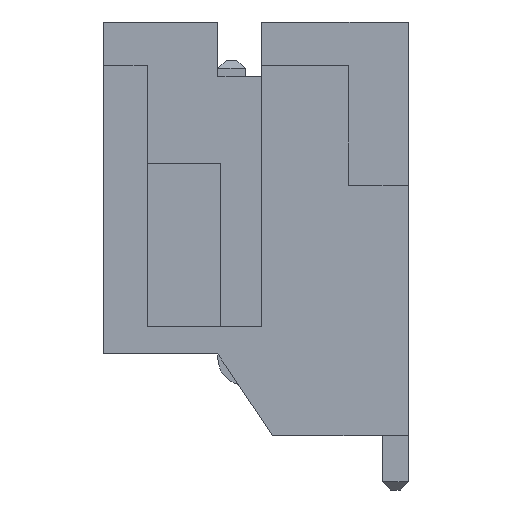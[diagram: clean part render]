
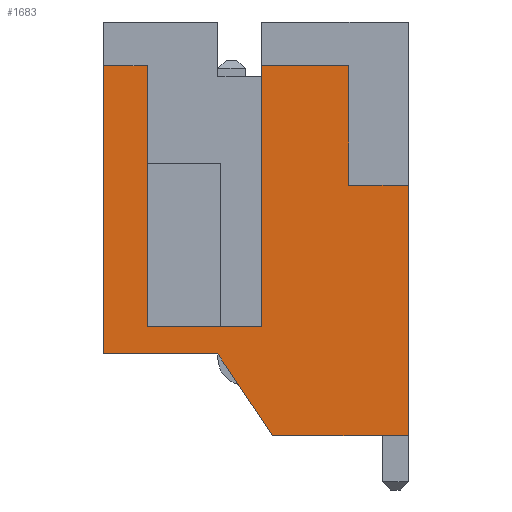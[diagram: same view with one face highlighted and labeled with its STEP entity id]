
A CAD part, left-side view. The second image highlights one B-rep face of the part: STEP entity #1683.
In plain terms, the highlighted planar face has unit normal (-1, 0, 0).
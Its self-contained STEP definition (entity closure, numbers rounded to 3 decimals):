
#15 = CARTESIAN_POINT ( 'NONE',  ( -4., 0., -3. ) ) ;
#113 = CARTESIAN_POINT ( 'NONE',  ( -4., 5.6, -0.8 ) ) ;
#222 = DIRECTION ( 'NONE',  ( 0., -1., 0. ) ) ;
#251 = CARTESIAN_POINT ( 'NONE',  ( -4., 1.1, -0.8 ) ) ;
#305 = CARTESIAN_POINT ( 'NONE',  ( -4., 2.7, -0.8 ) ) ;
#317 = ORIENTED_EDGE ( 'NONE', *, *, #3304, .T. ) ;
#318 = ORIENTED_EDGE ( 'NONE', *, *, #611, .T. ) ;
#322 = CARTESIAN_POINT ( 'NONE',  ( -4., 2.7, -0.8 ) ) ;
#324 = LINE ( 'NONE', #15, #3186 ) ;
#452 = ORIENTED_EDGE ( 'NONE', *, *, #1713, .T. ) ;
#459 = VERTEX_POINT ( 'NONE', #2300 ) ;
#462 = VECTOR ( 'NONE', #2949, 1000. ) ;
#492 = LINE ( 'NONE', #1971, #606 ) ;
#600 = VECTOR ( 'NONE', #3364, 1000. ) ;
#606 = VECTOR ( 'NONE', #2984, 1000. ) ;
#611 = EDGE_CURVE ( 'NONE', #3567, #2591, #324, .T. ) ;
#619 = EDGE_CURVE ( 'NONE', #1755, #459, #3584, .T. ) ;
#623 = CARTESIAN_POINT ( 'NONE',  ( -4., 1.1, -0.8 ) ) ;
#665 = VECTOR ( 'NONE', #1243, 1000. ) ;
#672 = ORIENTED_EDGE ( 'NONE', *, *, #3609, .T. ) ;
#792 = LINE ( 'NONE', #2969, #462 ) ;
#800 = EDGE_CURVE ( 'NONE', #3679, #459, #792, .T. ) ;
#869 = PLANE ( 'NONE',  #2678 ) ;
#872 = CARTESIAN_POINT ( 'NONE',  ( -4., 4.8, -5.6 ) ) ;
#907 = CARTESIAN_POINT ( 'NONE',  ( -4., 0., -7.6 ) ) ;
#924 = VERTEX_POINT ( 'NONE', #3655 ) ;
#1055 = LINE ( 'NONE', #1718, #3770 ) ;
#1112 = CARTESIAN_POINT ( 'NONE',  ( -4., 1.1, -0.8 ) ) ;
#1164 = CARTESIAN_POINT ( 'NONE',  ( -4., 4.8, -5.6 ) ) ;
#1218 = LINE ( 'NONE', #907, #1759 ) ;
#1234 = ORIENTED_EDGE ( 'NONE', *, *, #3900, .F. ) ;
#1243 = DIRECTION ( 'NONE',  ( 0., 1., 0. ) ) ;
#1282 = EDGE_CURVE ( 'NONE', #3679, #3567, #1218, .T. ) ;
#1325 = VECTOR ( 'NONE', #3546, 1000. ) ;
#1333 = EDGE_CURVE ( 'NONE', #2090, #3806, #2134, .T. ) ;
#1386 = CARTESIAN_POINT ( 'NONE',  ( -4., 2.7, -5.6 ) ) ;
#1475 = DIRECTION ( 'NONE',  ( 0., 0., 1. ) ) ;
#1494 = EDGE_LOOP ( 'NONE', ( #1234, #452, #3639, #317, #3325, #2797, #3235, #672, #1979, #3730, #2962, #318 ) ) ;
#1522 = LINE ( 'NONE', #2455, #3645 ) ;
#1551 = VERTEX_POINT ( 'NONE', #623 ) ;
#1683 = ADVANCED_FACE ( 'NONE', ( #3315 ), #869, .T. ) ;
#1713 = EDGE_CURVE ( 'NONE', #1551, #2254, #1747, .T. ) ;
#1718 = CARTESIAN_POINT ( 'NONE',  ( -4., 5.6, -6.1 ) ) ;
#1747 = LINE ( 'NONE', #251, #3192 ) ;
#1755 = VERTEX_POINT ( 'NONE', #1807 ) ;
#1759 = VECTOR ( 'NONE', #1475, 1000. ) ;
#1807 = CARTESIAN_POINT ( 'NONE',  ( -4., 3.5, -6.1 ) ) ;
#1843 = CARTESIAN_POINT ( 'NONE',  ( -4., 2.7, -5.6 ) ) ;
#1903 = CARTESIAN_POINT ( 'NONE',  ( -4., 1.1, -3. ) ) ;
#1971 = CARTESIAN_POINT ( 'NONE',  ( -4., 4.8, -0.8 ) ) ;
#1979 = ORIENTED_EDGE ( 'NONE', *, *, #619, .T. ) ;
#2073 = VECTOR ( 'NONE', #3912, 1000. ) ;
#2090 = VERTEX_POINT ( 'NONE', #1164 ) ;
#2134 = LINE ( 'NONE', #872, #600 ) ;
#2145 = DIRECTION ( 'NONE',  ( 0., 0., -1. ) ) ;
#2254 = VERTEX_POINT ( 'NONE', #322 ) ;
#2300 = CARTESIAN_POINT ( 'NONE',  ( -4., 2.495, -7.6 ) ) ;
#2341 = DIRECTION ( 'NONE',  ( 0., 1., 0. ) ) ;
#2383 = DIRECTION ( 'NONE',  ( 0., 1., 0. ) ) ;
#2403 = CARTESIAN_POINT ( 'NONE',  ( -4., 0., -7.6 ) ) ;
#2408 = EDGE_CURVE ( 'NONE', #924, #3550, #1055, .T. ) ;
#2416 = VECTOR ( 'NONE', #2145, 1000. ) ;
#2447 = DIRECTION ( 'NONE',  ( -1., 0., 0. ) ) ;
#2455 = CARTESIAN_POINT ( 'NONE',  ( -4., 5.6, -6.1 ) ) ;
#2591 = VERTEX_POINT ( 'NONE', #1903 ) ;
#2652 = CARTESIAN_POINT ( 'NONE',  ( -4., 4.8, -0.8 ) ) ;
#2671 = CARTESIAN_POINT ( 'NONE',  ( -4., 3.5, -6.1 ) ) ;
#2678 = AXIS2_PLACEMENT_3D ( 'NONE', #2403, #2447, #2757 ) ;
#2757 = DIRECTION ( 'NONE',  ( 0., 0., 1. ) ) ;
#2797 = ORIENTED_EDGE ( 'NONE', *, *, #3456, .T. ) ;
#2949 = DIRECTION ( 'NONE',  ( 0., 1., 0. ) ) ;
#2962 = ORIENTED_EDGE ( 'NONE', *, *, #1282, .T. ) ;
#2969 = CARTESIAN_POINT ( 'NONE',  ( -4., 0., -7.6 ) ) ;
#2984 = DIRECTION ( 'NONE',  ( 0., 1., 0. ) ) ;
#3044 = CARTESIAN_POINT ( 'NONE',  ( -4., 0., -7.6 ) ) ;
#3186 = VECTOR ( 'NONE', #2341, 1000. ) ;
#3192 = VECTOR ( 'NONE', #2383, 1000. ) ;
#3217 = LINE ( 'NONE', #1112, #1325 ) ;
#3221 = DIRECTION ( 'NONE',  ( 0., 0., 1. ) ) ;
#3226 = EDGE_CURVE ( 'NONE', #2254, #3442, #3944, .T. ) ;
#3235 = ORIENTED_EDGE ( 'NONE', *, *, #2408, .F. ) ;
#3304 = EDGE_CURVE ( 'NONE', #3442, #2090, #3636, .T. ) ;
#3315 = FACE_OUTER_BOUND ( 'NONE', #1494, .T. ) ;
#3325 = ORIENTED_EDGE ( 'NONE', *, *, #1333, .T. ) ;
#3364 = DIRECTION ( 'NONE',  ( 0., 0., 1. ) ) ;
#3389 = CARTESIAN_POINT ( 'NONE',  ( -4., 0., -3. ) ) ;
#3442 = VERTEX_POINT ( 'NONE', #1386 ) ;
#3456 = EDGE_CURVE ( 'NONE', #3806, #3550, #492, .T. ) ;
#3546 = DIRECTION ( 'NONE',  ( 0., 0., -1. ) ) ;
#3550 = VERTEX_POINT ( 'NONE', #113 ) ;
#3567 = VERTEX_POINT ( 'NONE', #3389 ) ;
#3584 = LINE ( 'NONE', #2671, #2073 ) ;
#3609 = EDGE_CURVE ( 'NONE', #924, #1755, #1522, .T. ) ;
#3636 = LINE ( 'NONE', #1843, #665 ) ;
#3639 = ORIENTED_EDGE ( 'NONE', *, *, #3226, .T. ) ;
#3645 = VECTOR ( 'NONE', #222, 1000. ) ;
#3655 = CARTESIAN_POINT ( 'NONE',  ( -4., 5.6, -6.1 ) ) ;
#3679 = VERTEX_POINT ( 'NONE', #3044 ) ;
#3730 = ORIENTED_EDGE ( 'NONE', *, *, #800, .F. ) ;
#3770 = VECTOR ( 'NONE', #3221, 1000. ) ;
#3806 = VERTEX_POINT ( 'NONE', #2652 ) ;
#3900 = EDGE_CURVE ( 'NONE', #1551, #2591, #3217, .T. ) ;
#3912 = DIRECTION ( 'NONE',  ( 0., -0.557, -0.831 ) ) ;
#3944 = LINE ( 'NONE', #305, #2416 ) ;
